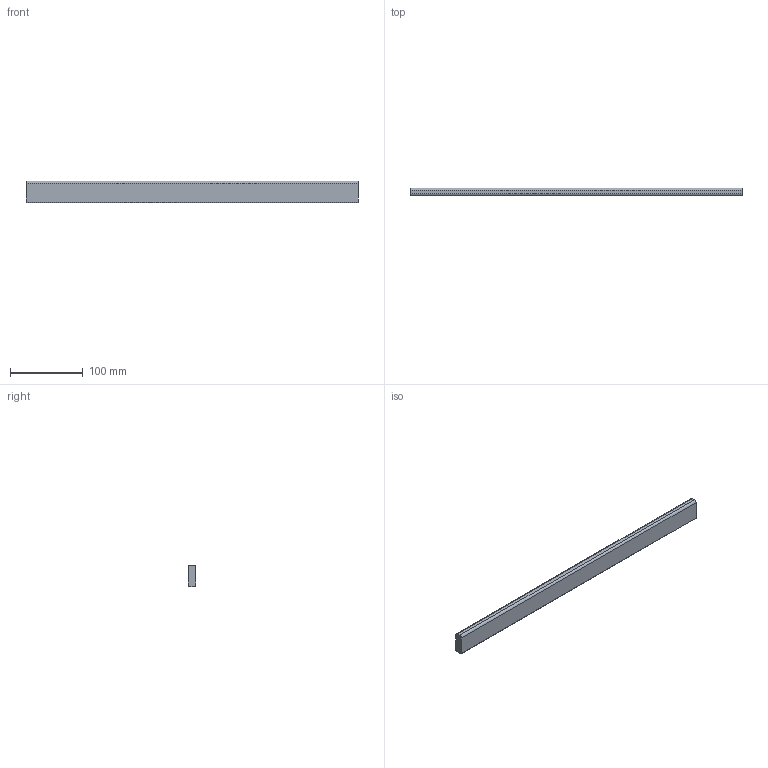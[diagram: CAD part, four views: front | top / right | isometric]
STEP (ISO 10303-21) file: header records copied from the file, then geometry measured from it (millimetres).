
FILE_DESCRIPTION (( 'STEP AP214' ), '1' );
FILE_NAME ('_Querreling_KAB-550_KS-19.step', '2010-08-26T14:58:35', ( 'grass' ), ( '' ), 'SwSTEP 2.0', 'SolidWorks 2009', '' );
FILE_SCHEMA (( 'AUTOMOTIVE_DESIGN' ));
Length unit declared in the file: millimetre
Products named in the file (1): _Querreling_KAB-550_KS-19
Bounding box: 456.5 x 10.5 x 30 mm (x, y, z)
Volume: 141838.2 mm3; surface area: 36030.5 mm2
Topology: 1 solids, 1 shells, 10 faces, 24 edges, 16 vertices
Faces by surface type: plane 6, cylinder 4
Entity records: 330 total; most frequent: DIRECTION 54, CARTESIAN_POINT 51, ORIENTED_EDGE 48, EDGE_CURVE 24, AXIS2_PLACEMENT_3D 19, VECTOR 16, LINE 16, VERTEX_POINT 16
